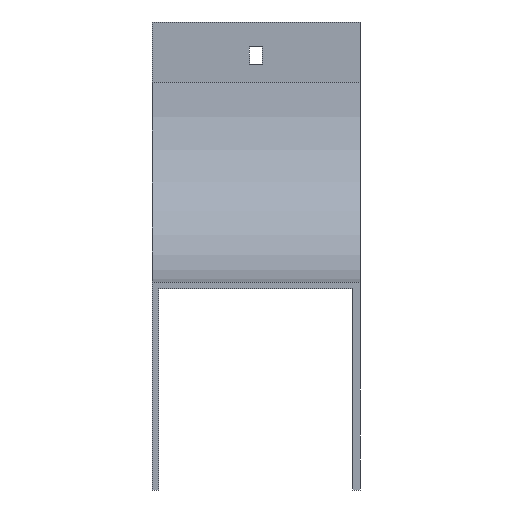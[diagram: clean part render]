
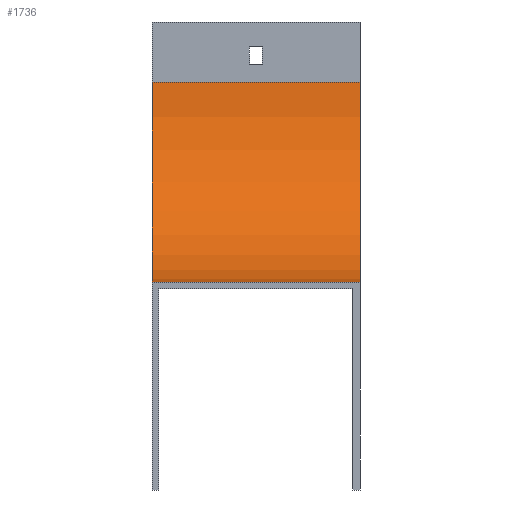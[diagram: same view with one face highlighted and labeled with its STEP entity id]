
A CAD part, front view. The second image highlights one B-rep face of the part: STEP entity #1736.
In plain terms, the highlighted cylindrical face has radius 100 mm (diameter 200 mm), a partial arc.
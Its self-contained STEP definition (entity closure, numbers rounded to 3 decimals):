
#25 = DIRECTION ( 'NONE',  ( -1., 0., 0. ) ) ;
#292 = ORIENTED_EDGE ( 'NONE', *, *, #1423, .T. ) ;
#319 = VERTEX_POINT ( 'NONE', #1115 ) ;
#345 = FACE_OUTER_BOUND ( 'NONE', #1907, .T. ) ;
#353 = VERTEX_POINT ( 'NONE', #1286 ) ;
#449 = CARTESIAN_POINT ( 'NONE',  ( 52., -100., -30. ) ) ;
#458 = DIRECTION ( 'NONE',  ( -1., 0., 0. ) ) ;
#464 = LINE ( 'NONE', #1060, #480 ) ;
#480 = VECTOR ( 'NONE', #25, 1000. ) ;
#501 = CYLINDRICAL_SURFACE ( 'NONE', #1773, 100. ) ;
#510 = CARTESIAN_POINT ( 'NONE',  ( 52., -100., -30. ) ) ;
#517 = ORIENTED_EDGE ( 'NONE', *, *, #1032, .T. ) ;
#528 = DIRECTION ( 'NONE',  ( -1., 0., 0. ) ) ;
#560 = VERTEX_POINT ( 'NONE', #834 ) ;
#677 = CARTESIAN_POINT ( 'NONE',  ( 52., 0., -30. ) ) ;
#690 = CARTESIAN_POINT ( 'NONE',  ( -52., -100., -30. ) ) ;
#778 = DIRECTION ( 'NONE',  ( 0., 0., 1. ) ) ;
#834 = CARTESIAN_POINT ( 'NONE',  ( 52., -100., -130. ) ) ;
#928 = CIRCLE ( 'NONE', #1088, 100. ) ;
#931 = EDGE_CURVE ( 'NONE', #560, #966, #464, .T. ) ;
#966 = VERTEX_POINT ( 'NONE', #1854 ) ;
#991 = ORIENTED_EDGE ( 'NONE', *, *, #1506, .F. ) ;
#1032 = EDGE_CURVE ( 'NONE', #319, #966, #928, .T. ) ;
#1046 = CIRCLE ( 'NONE', #1927, 100. ) ;
#1060 = CARTESIAN_POINT ( 'NONE',  ( 52., -100., -130. ) ) ;
#1088 = AXIS2_PLACEMENT_3D ( 'NONE', #690, #1904, #1295 ) ;
#1115 = CARTESIAN_POINT ( 'NONE',  ( -52., 0., -30. ) ) ;
#1158 = DIRECTION ( 'NONE',  ( 0., 0., 1. ) ) ;
#1237 = DIRECTION ( 'NONE',  ( -1., 0., 0. ) ) ;
#1286 = CARTESIAN_POINT ( 'NONE',  ( 52., 0., -30. ) ) ;
#1295 = DIRECTION ( 'NONE',  ( 0., 0., 1. ) ) ;
#1423 = EDGE_CURVE ( 'NONE', #353, #319, #1881, .T. ) ;
#1452 = VECTOR ( 'NONE', #528, 1000. ) ;
#1503 = ORIENTED_EDGE ( 'NONE', *, *, #931, .F. ) ;
#1506 = EDGE_CURVE ( 'NONE', #353, #560, #1046, .T. ) ;
#1736 = ADVANCED_FACE ( 'NONE', ( #345 ), #501, .F. ) ;
#1773 = AXIS2_PLACEMENT_3D ( 'NONE', #510, #1237, #778 ) ;
#1854 = CARTESIAN_POINT ( 'NONE',  ( -52., -100., -130. ) ) ;
#1881 = LINE ( 'NONE', #677, #1452 ) ;
#1904 = DIRECTION ( 'NONE',  ( -1., 0., 0. ) ) ;
#1907 = EDGE_LOOP ( 'NONE', ( #517, #1503, #991, #292 ) ) ;
#1927 = AXIS2_PLACEMENT_3D ( 'NONE', #449, #458, #1158 ) ;
